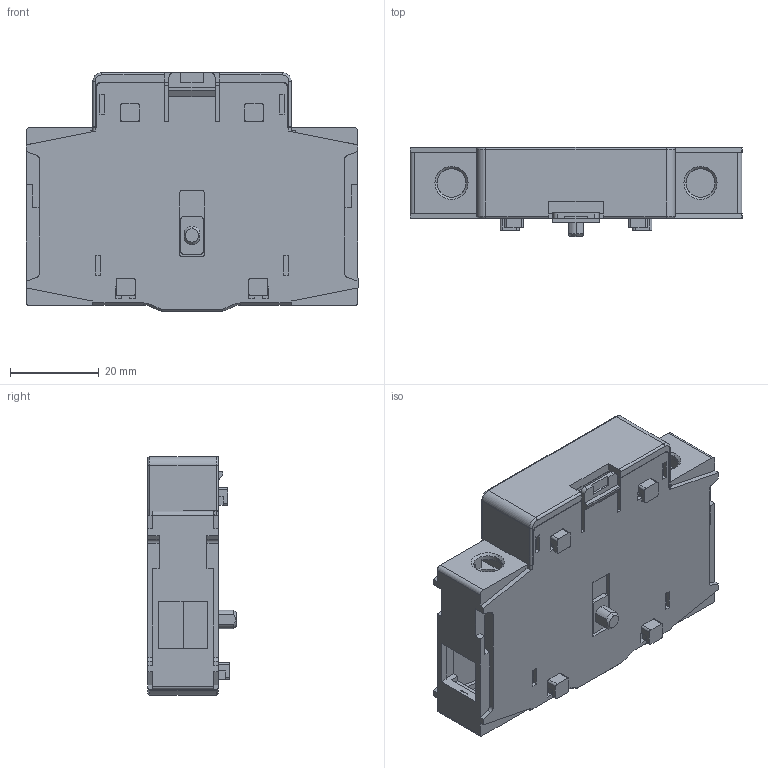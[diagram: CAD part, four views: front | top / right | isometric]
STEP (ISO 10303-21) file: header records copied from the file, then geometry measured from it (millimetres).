
FILE_DESCRIPTION (( 'STEP AP203' ), '1' );
FILE_NAME ('NF2-80PS.STEP', '2024-03-01T06:47:20', ( 'wzjh' ), ( '' ), 'SwSTEP 2.0', 'SolidWorks 2023', '' );
FILE_SCHEMA (( 'CONFIG_CONTROL_DESIGN' ));
Length unit declared in the file: millimetre
Products named in the file (1): NF2-80PS
Bounding box: 75 x 20.05 x 53.88 mm (x, y, z)
Volume: 42992.6 mm3; surface area: 20734.8 mm2
Topology: 1 solids, 5 shells, 702 faces, 1962 edges, 1293 vertices
Faces by surface type: plane 580, cylinder 102, cone 16, torus 4
Entity records: 22412 total; most frequent: CARTESIAN_POINT 4070, ORIENTED_EDGE 3924, DIRECTION 3589, EDGE_CURVE 1962, VECTOR 1701, LINE 1701, VERTEX_POINT 1293, AXIS2_PLACEMENT_3D 944
